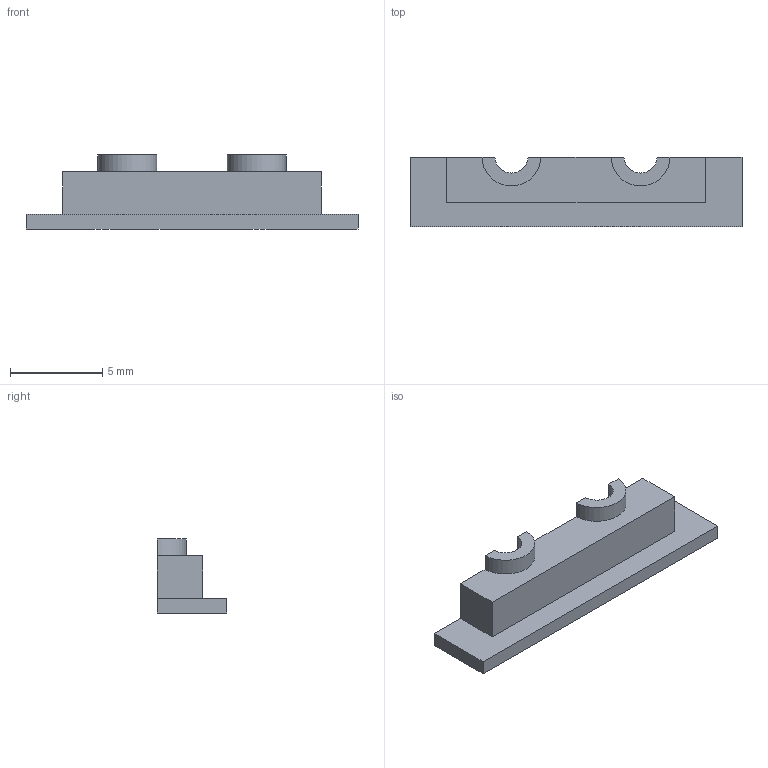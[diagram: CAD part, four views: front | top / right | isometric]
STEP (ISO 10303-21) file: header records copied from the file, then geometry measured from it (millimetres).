
FILE_DESCRIPTION(('Open CASCADE Model'),'2;1');
FILE_NAME('Open CASCADE Shape Model','2026-10-30T11:34:49',('Author'),( 'Open CASCADE'),'Open CASCADE STEP processor 7.9','Open CASCADE 7.9' ,'Unknown');
FILE_SCHEMA(('AUTOMOTIVE_DESIGN { 1 0 10303 214 1 1 1 1 }'));
Length unit declared in the file: millimetre
Products named in the file (1): Open CASCADE STEP translator 7.9 2
Bounding box: 18 x 3.75 x 4.01 mm (x, y, z)
Volume: 115 mm3; surface area: 267.2 mm2
Topology: 1 solids, 1 shells, 22 faces, 60 edges, 40 vertices
Faces by surface type: plane 16, cylinder 6
Entity records: 1446 total; most frequent: CARTESIAN_POINT 355, DIRECTION 166, ORIENTED_EDGE 120, PCURVE 120, DEFINITIONAL_REPRESENTATION 120, LINE 92, VECTOR 92, B_SPLINE_CURVE_WITH_KNOTS 64
